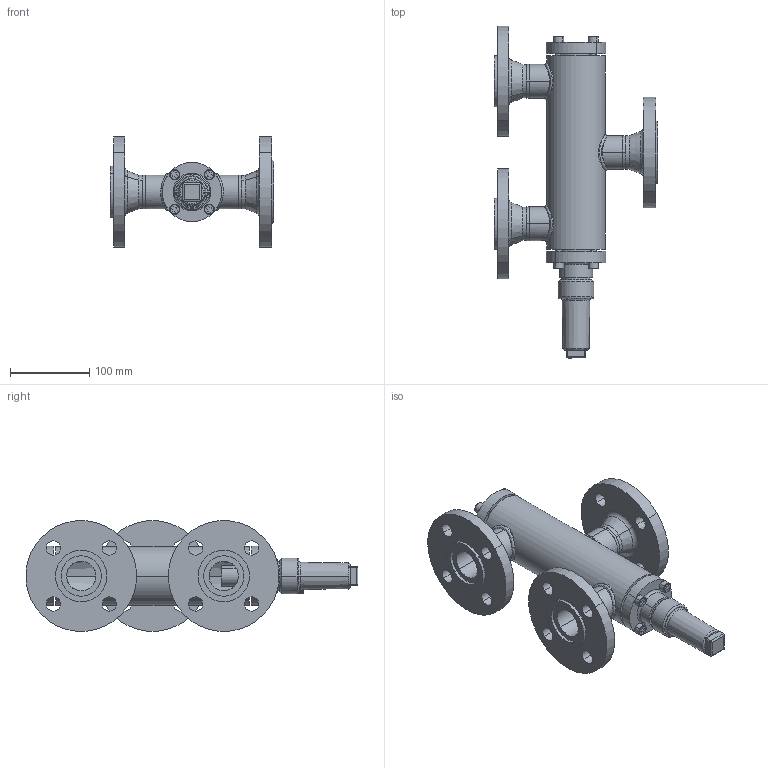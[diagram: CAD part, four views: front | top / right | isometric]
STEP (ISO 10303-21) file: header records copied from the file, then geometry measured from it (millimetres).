
FILE_DESCRIPTION (( 'STEP AP214' ), '1' );
FILE_NAME ('WVB23020D13-DN032_DIN-FL-N-F_PS40.STEP', '2010-09-08T08:41:24', ( 'Eckhard Grams' ), ( 'AWP Kälte Klima Armaturen GmbH' ), 'SwSTEP 2.0', 'SolidWorks 2002296', '' );
FILE_SCHEMA (( 'AUTOMOTIVE_DESIGN' ));
Length unit declared in the file: millimetre
Products named in the file (17): WVB23020D13-DN032_DIN-FL-N-F_PS40; AVB16300E13_Deck+Schr-DN25-32_Standard; Deckel16300E13-DN25-32_Standard; Geh,kpl24020E13-DN32_DIN-FL-N-F_PS40_Standard; Flansch-DIN2635-Feder_PS40_DIN-Flansch-DN032_PS40-Feder; Geh,kpl24000E13_DN32_R1_PS40_Standard; Gehäuse24000E13-DN32_R1_PS40_Standard; Rohrstutzen-24000E13-DN32_R1_Standard; Schw-24000E13-DN32_Standard; Flansch-DIN2635-Nut_PS40_DIN-Flansch-DN032_PS40-Nut; beadC4020-13-2_Standard; beadC4020-13-1_Standard; beadC4020-13-3_Standard; Kappe 16402-13_DN10-32 (M36x2)_Standard; WVB-R23000E13_Deck+Schr-DN25-32_Standard; Deckel23000E13-DN25-32_Standard; Zylinderschraube-DIN912_M 8x  25
Assembly tree (28 placements, depth 4):
  WVB23020D13-DN032_DIN-FL-N-F_PS40
    AVB16300E13_Deck+Schr-DN25-32_Standard
      Zylinderschraube-DIN912_M 8x  25  x4
      Deckel16300E13-DN25-32_Standard
    Kappe 16402-13_DN10-32 (M36x2)_Standard
    Geh,kpl24020E13-DN32_DIN-FL-N-F_PS40_Standard
      beadC4020-13-3_Standard
      Flansch-DIN2635-Nut_PS40_DIN-Flansch-DN032_PS40-Nut
      Flansch-DIN2635-Feder_PS40_DIN-Flansch-DN032_PS40-Feder  x2
      beadC4020-13-1_Standard
      Geh,kpl24000E13_DN32_R1_PS40_Standard
        Schw-24000E13-DN32_Standard  x3
        Rohrstutzen-24000E13-DN32_R1_Standard  x3
        Gehäuse24000E13-DN32_R1_PS40_Standard
      beadC4020-13-2_Standard
    WVB-R23000E13_Deck+Schr-DN25-32_Standard
      Zylinderschraube-DIN912_M 8x  25  x4
      Deckel23000E13-DN25-32_Standard
Bounding box: 206 x 419.23 x 139.47 mm (x, y, z)
Volume: 1596350.6 mm3; surface area: 328359.8 mm2
Topology: 24 solids, 24 shells, 511 faces, 1173 edges, 737 vertices
Faces by surface type: cylinder 222, plane 147, cone 65, torus 43, bspline 34
Entity records: 27835 total; most frequent: CARTESIAN_POINT 19417, DIRECTION 1607, ORIENTED_EDGE 1502, EDGE_CURVE 751, AXIS2_PLACEMENT_3D 685, VERTEX_POINT 471, EDGE_LOOP 390, CIRCLE 358
